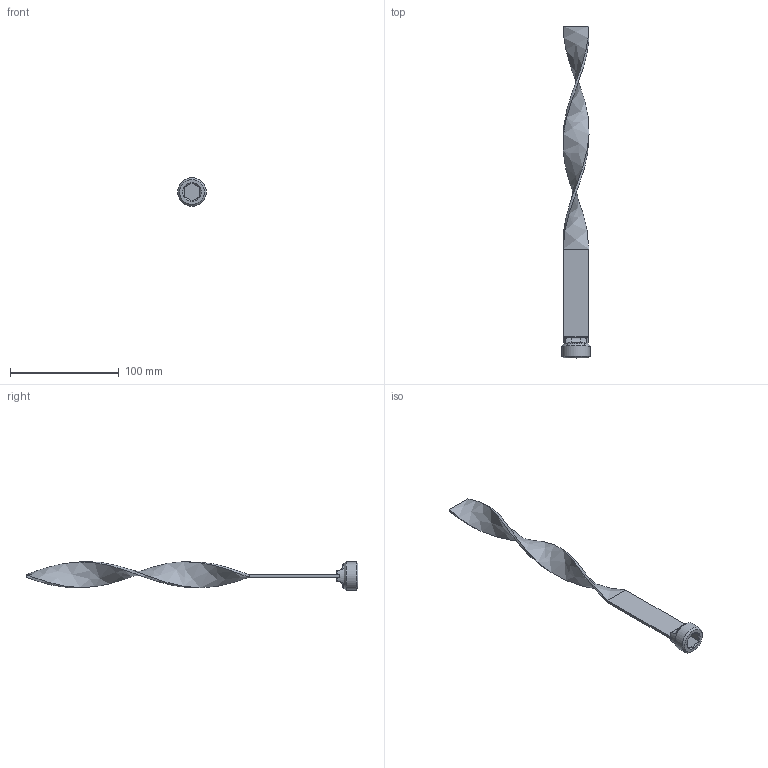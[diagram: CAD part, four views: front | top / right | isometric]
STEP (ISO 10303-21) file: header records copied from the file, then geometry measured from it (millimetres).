
FILE_DESCRIPTION(/* description */ (''),/* implementation_level */ '2;1');
FILE_NAME(/* name */ 'C:/Users/drich/Desktop/TB34X12BSP v1.step',/* time_stamp */ '2020-01-14T09:25:41-06:00',/* author */ (''),/* organization */ (''),/* preprocessor_version */ 'ST-DEVELOPER v18',/* originating_system */ 'Autodesk Translation Framework v8.12.0.6',/* authorisation */ '');
FILE_SCHEMA (('AUTOMOTIVE_DESIGN { 1 0 10303 214 3 1 1 }'));
Length unit declared in the file: inch
Products named in the file (1): TB34X12BSP
Bounding box: 26.3 x 304.8 x 26.3 mm (x, y, z)
Volume: 22149.7 mm3; surface area: 18028.6 mm2
Topology: 2 solids, 2 shells, 49 faces, 117 edges, 74 vertices
Faces by surface type: plane 24, cylinder 8, bspline 8, torus 6, cone 3
Full cylindrical faces by diameter (mm): 22.504 x1, 26.299 x1
Entity records: 2087 total; most frequent: CARTESIAN_POINT 966, ORIENTED_EDGE 234, DIRECTION 207, EDGE_CURVE 117, AXIS2_PLACEMENT_3D 78, VERTEX_POINT 74, EDGE_LOOP 51, LINE 51
